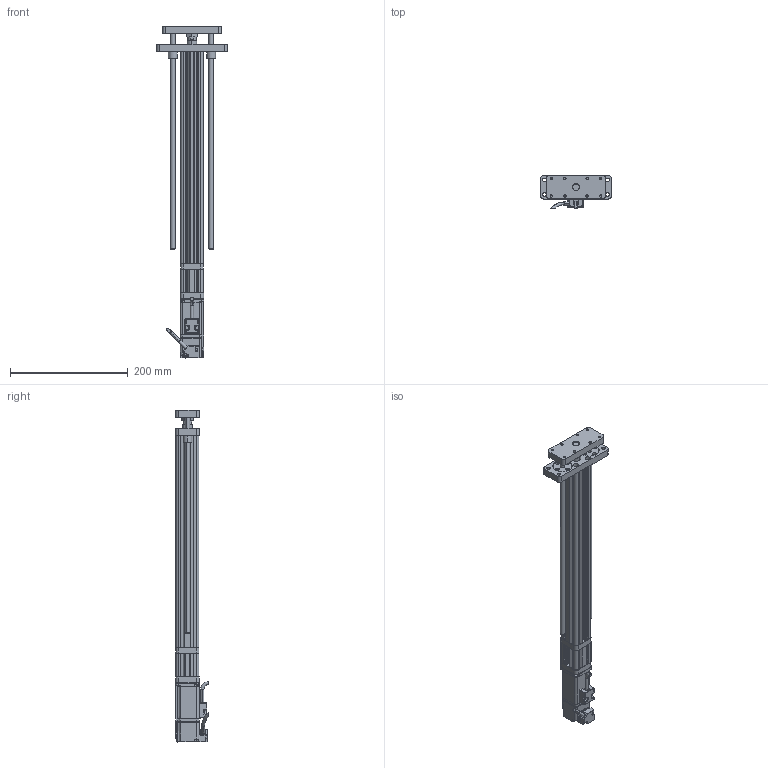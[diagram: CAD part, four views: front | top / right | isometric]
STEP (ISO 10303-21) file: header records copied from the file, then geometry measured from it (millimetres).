
FILE_DESCRIPTION (( 'STEP AP214' ), '1' );
FILE_NAME ('039-S300-D02-A-M3-C5-2.STEP', '2021-03-02T05:47:31', ( '' ), ( '' ), 'SwSTEP 2.0', 'SolidWorks 2018', '' );
FILE_SCHEMA (( 'AUTOMOTIVE_DESIGN' ));
Length unit declared in the file: millimetre
Products named in the file (12): CMC039-DB; CMC039-AZB; CMC039-DJZ; CMC039-ZLLJB; CMC039-GT; CMC039-FL; 039-S300-D02-A-M3-C5-2; GB／T6172．1-2000六角薄螺母A级和B级M12; CMC039-DT; ECMA-CX0401ES-40框號系列機種-100W低慣量系列; CMC039-DZ; LME01-d8
Assembly tree (13 placements, depth 2):
  039-S300-D02-A-M3-C5-2
    CMC039-GT
    CMC039-FL
    CMC039-DT
    LME01-d8  x2
    CMC039-DB
    GB／T6172．1-2000六角薄螺母A级和B级M12
    CMC039-DZ  x2
    CMC039-AZB
    CMC039-DJZ
    CMC039-ZLLJB
    ECMA-CX0401ES-40框號系列機種-100W低慣量系列
Bounding box: 120 x 55.39 x 563.6 mm (x, y, z)
Volume: 668217.9 mm3; surface area: 230263.9 mm2
Topology: 13 solids, 21 shells, 867 faces, 2244 edges, 1415 vertices
Faces by surface type: cylinder 384, plane 328, bspline 88, cone 67
Entity records: 32022 total; most frequent: CARTESIAN_POINT 11934, ORIENTED_EDGE 4230, DIRECTION 3647, EDGE_CURVE 2115, VERTEX_POINT 1356, AXIS2_PLACEMENT_3D 1292, VECTOR 1063, LINE 1063
